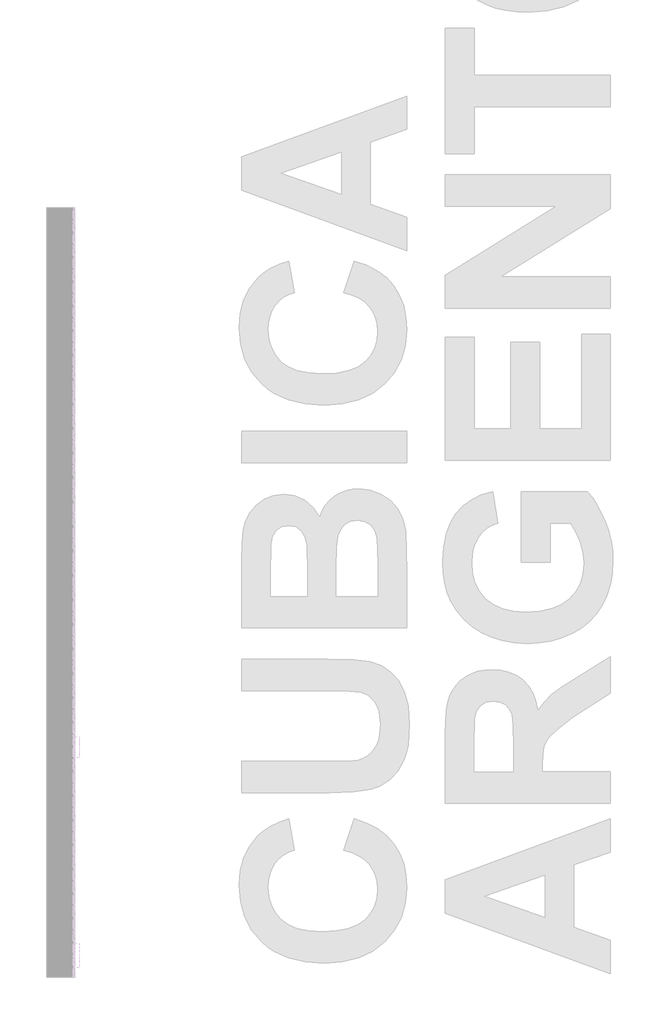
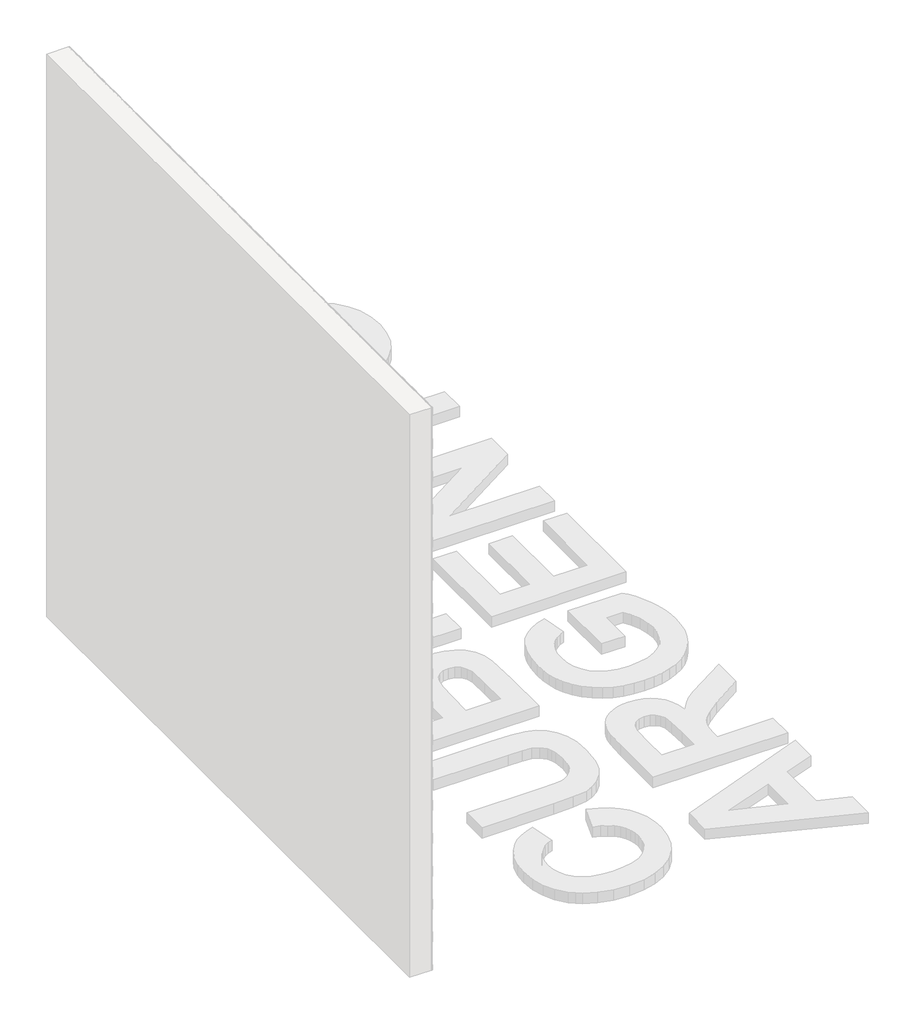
# One storey, part 10 of 121: 145 proxies.
"""IFC4 building model written with IfcOpenShell, lengths in millimetres."""

from ifc_helpers import new_model, si_unit, origin, place, context, project, spatial, transform, mapped, element, save
from components import generic_models_b2b2c5c1, generic_models_9bf73f6f, generic_models_5d175859

model = new_model("IFC4")

# Units and contexts
model_context = context("Model", 3, world=origin())
ifc_project = project(units=[si_unit("LENGTHUNIT", "METRE", prefix="MILLI")], contexts=[model_context])

# Site, building, storey
site = spatial("IfcSite", under=ifc_project)
building = spatial("IfcBuilding", under=site)
storey = spatial("IfcBuildingStorey", under=building, Name="PORTOBELLO - SHOWROOM", Elevation=0.0)

# Proxies
placement = place(None, origin())
generic_models_shape = generic_models_b2b2c5c1(model_context)
element("IfcBuildingElementProxy", 1, Name="PBSHOP - CUBICA ARGENTO 4,8X8,3 : CUBICA ARGENTO - POSIÇÃO 01", ObjectType="PBSHOP - CUBICA ARGENTO 4,8X8,3 : CUBICA ARGENTO - POSIÇÃO 01", at=placement, inside=storey, context=model_context, shape_type="MappedRepresentation", body=[
    mapped(generic_models_shape, transform((150369.5341846, -5994.6755428, 1854.9188494), x_axis=(0.0, 1.0, 0.0), y_axis=(0.0, 0.0, 1.0), z_axis=(1.0, 0.0, 0.0))),
])
element("IfcBuildingElementProxy", 2, Name="PBSHOP - CUBICA ARGENTO 4,8X8,3 : CUBICA ARGENTO - POSIÇÃO 01", ObjectType="PBSHOP - CUBICA ARGENTO 4,8X8,3 : CUBICA ARGENTO - POSIÇÃO 01", at=placement, inside=storey, context=model_context, shape_type="MappedRepresentation", body=[
    mapped(generic_models_shape, transform((150369.5341846, -5903.8362736, 1854.9188494), x_axis=(0.0, 1.0, 0.0), y_axis=(0.0, 0.0, 1.0), z_axis=(1.0, 0.0, 0.0))),
])
element("IfcBuildingElementProxy", 3, Name="PBSHOP - CUBICA ARGENTO 4,8X8,3 : CUBICA ARGENTO - POSIÇÃO 01", ObjectType="PBSHOP - CUBICA ARGENTO 4,8X8,3 : CUBICA ARGENTO - POSIÇÃO 01", at=placement, inside=storey, context=model_context, shape_type="MappedRepresentation", body=[
    mapped(generic_models_shape, transform((150369.5341846, -5812.9970043, 1854.9188494), x_axis=(0.0, 1.0, 0.0), y_axis=(0.0, 0.0, 1.0), z_axis=(1.0, 0.0, 0.0))),
])
element("IfcBuildingElementProxy", 4, Name="PBSHOP - CUBICA ARGENTO 4,8X8,3 : CUBICA ARGENTO - POSIÇÃO 01", ObjectType="PBSHOP - CUBICA ARGENTO 4,8X8,3 : CUBICA ARGENTO - POSIÇÃO 01", at=placement, inside=storey, context=model_context, shape_type="MappedRepresentation", body=[
    mapped(generic_models_shape, transform((150369.5341846, -5722.1577351, 1854.9188494), x_axis=(0.0, 1.0, 0.0), y_axis=(0.0, 0.0, 1.0), z_axis=(1.0, 0.0, 0.0))),
])
element("IfcBuildingElementProxy", 5, Name="PBSHOP - CUBICA ARGENTO 4,8X8,3 : CUBICA ARGENTO - POSIÇÃO 01", ObjectType="PBSHOP - CUBICA ARGENTO 4,8X8,3 : CUBICA ARGENTO - POSIÇÃO 01", at=placement, inside=storey, context=model_context, shape_type="MappedRepresentation", body=[
    mapped(generic_models_shape, transform((150369.5341846, -5631.3184659, 1854.9188494), x_axis=(0.0, 1.0, 0.0), y_axis=(0.0, 0.0, 1.0), z_axis=(1.0, 0.0, 0.0))),
])
element("IfcBuildingElementProxy", 6, Name="PBSHOP - CUBICA ARGENTO 4,8X8,3 : CUBICA ARGENTO - POSIÇÃO 01", ObjectType="PBSHOP - CUBICA ARGENTO 4,8X8,3 : CUBICA ARGENTO - POSIÇÃO 01", at=placement, inside=storey, context=model_context, shape_type="MappedRepresentation", body=[
    mapped(generic_models_shape, transform((150369.5341846, -5540.4791966, 1854.9188494), x_axis=(0.0, 1.0, 0.0), y_axis=(0.0, 0.0, 1.0), z_axis=(1.0, 0.0, 0.0))),
])
element("IfcBuildingElementProxy", 7, Name="PBSHOP - CUBICA ARGENTO 4,8X8,3 : CUBICA ARGENTO - POSIÇÃO 01", ObjectType="PBSHOP - CUBICA ARGENTO 4,8X8,3 : CUBICA ARGENTO - POSIÇÃO 01", at=placement, inside=storey, context=model_context, shape_type="MappedRepresentation", body=[
    mapped(generic_models_shape, transform((150369.5341846, -5449.6399274, 1854.9188494), x_axis=(0.0, 1.0, 0.0), y_axis=(0.0, 0.0, 1.0), z_axis=(1.0, 0.0, 0.0))),
])
element("IfcBuildingElementProxy", 8, Name="PBSHOP - CUBICA ARGENTO 4,8X8,3 : CUBICA ARGENTO - POSIÇÃO 01", ObjectType="PBSHOP - CUBICA ARGENTO 4,8X8,3 : CUBICA ARGENTO - POSIÇÃO 01", at=placement, inside=storey, context=model_context, shape_type="MappedRepresentation", body=[
    mapped(generic_models_shape, transform((150369.5341846, -5358.8006581, 1854.9188494), x_axis=(0.0, 1.0, 0.0), y_axis=(0.0, 0.0, 1.0), z_axis=(1.0, 0.0, 0.0))),
])
element("IfcBuildingElementProxy", 9, Name="PBSHOP - CUBICA ARGENTO 4,8X8,3 : CUBICA ARGENTO - POSIÇÃO 01", ObjectType="PBSHOP - CUBICA ARGENTO 4,8X8,3 : CUBICA ARGENTO - POSIÇÃO 01", at=placement, inside=storey, context=model_context, shape_type="MappedRepresentation", body=[
    mapped(generic_models_shape, transform((150369.5341846, -5267.9613889, 1854.9188494), x_axis=(0.0, 1.0, 0.0), y_axis=(0.0, 0.0, 1.0), z_axis=(1.0, 0.0, 0.0))),
])
element("IfcBuildingElementProxy", 10, Name="PBSHOP - CUBICA ARGENTO 4,8X8,3 : CUBICA ARGENTO - POSIÇÃO 01", ObjectType="PBSHOP - CUBICA ARGENTO 4,8X8,3 : CUBICA ARGENTO - POSIÇÃO 01", at=placement, inside=storey, context=model_context, shape_type="MappedRepresentation", body=[
    mapped(generic_models_shape, transform((150369.5341846, -5177.1221196, 1854.9188494), x_axis=(0.0, 1.0, 0.0), y_axis=(0.0, 0.0, 1.0), z_axis=(1.0, 0.0, 0.0))),
])
element("IfcBuildingElementProxy", 11, Name="PBSHOP - CUBICA ARGENTO 4,8X8,3 : CUBICA ARGENTO - POSIÇÃO 01", ObjectType="PBSHOP - CUBICA ARGENTO 4,8X8,3 : CUBICA ARGENTO - POSIÇÃO 01", at=placement, inside=storey, context=model_context, shape_type="MappedRepresentation", body=[
    mapped(generic_models_shape, transform((150369.5341846, -5086.2828504, 1854.9188494), x_axis=(0.0, 1.0, 0.0), y_axis=(0.0, 0.0, 1.0), z_axis=(1.0, 0.0, 0.0))),
])
element("IfcBuildingElementProxy", 12, Name="PBSHOP - CUBICA ARGENTO 4,8X8,3 : CUBICA ARGENTO - POSIÇÃO 01", ObjectType="PBSHOP - CUBICA ARGENTO 4,8X8,3 : CUBICA ARGENTO - POSIÇÃO 01", at=placement, inside=storey, context=model_context, shape_type="MappedRepresentation", body=[
    mapped(generic_models_shape, transform((150369.5341846, -5949.2559082, 1933.8534878), x_axis=(0.0, 1.0, 0.0), y_axis=(0.0, 0.0, 1.0), z_axis=(1.0, 0.0, 0.0))),
])
element("IfcBuildingElementProxy", 13, Name="PBSHOP - CUBICA ARGENTO 4,8X8,3 : CUBICA ARGENTO - POSIÇÃO 01", ObjectType="PBSHOP - CUBICA ARGENTO 4,8X8,3 : CUBICA ARGENTO - POSIÇÃO 01", at=placement, inside=storey, context=model_context, shape_type="MappedRepresentation", body=[
    mapped(generic_models_shape, transform((150369.5341846, -5858.416639, 1933.8534878), x_axis=(0.0, 1.0, 0.0), y_axis=(0.0, 0.0, 1.0), z_axis=(1.0, 0.0, 0.0))),
])
element("IfcBuildingElementProxy", 14, Name="PBSHOP - CUBICA ARGENTO 4,8X8,3 : CUBICA ARGENTO - POSIÇÃO 01", ObjectType="PBSHOP - CUBICA ARGENTO 4,8X8,3 : CUBICA ARGENTO - POSIÇÃO 01", at=placement, inside=storey, context=model_context, shape_type="MappedRepresentation", body=[
    mapped(generic_models_shape, transform((150369.5341846, -5767.5773697, 1933.8534878), x_axis=(0.0, 1.0, 0.0), y_axis=(0.0, 0.0, 1.0), z_axis=(1.0, 0.0, 0.0))),
])
element("IfcBuildingElementProxy", 15, Name="PBSHOP - CUBICA ARGENTO 4,8X8,3 : CUBICA ARGENTO - POSIÇÃO 01", ObjectType="PBSHOP - CUBICA ARGENTO 4,8X8,3 : CUBICA ARGENTO - POSIÇÃO 01", at=placement, inside=storey, context=model_context, shape_type="MappedRepresentation", body=[
    mapped(generic_models_shape, transform((150369.5341846, -5676.7381005, 1933.8534878), x_axis=(0.0, 1.0, 0.0), y_axis=(0.0, 0.0, 1.0), z_axis=(1.0, 0.0, 0.0))),
])
element("IfcBuildingElementProxy", 16, Name="PBSHOP - CUBICA ARGENTO 4,8X8,3 : CUBICA ARGENTO - POSIÇÃO 01", ObjectType="PBSHOP - CUBICA ARGENTO 4,8X8,3 : CUBICA ARGENTO - POSIÇÃO 01", at=placement, inside=storey, context=model_context, shape_type="MappedRepresentation", body=[
    mapped(generic_models_shape, transform((150369.5341846, -5585.8988312, 1933.8534878), x_axis=(0.0, 1.0, 0.0), y_axis=(0.0, 0.0, 1.0), z_axis=(1.0, 0.0, 0.0))),
])
element("IfcBuildingElementProxy", 17, Name="PBSHOP - CUBICA ARGENTO 4,8X8,3 : CUBICA ARGENTO - POSIÇÃO 01", ObjectType="PBSHOP - CUBICA ARGENTO 4,8X8,3 : CUBICA ARGENTO - POSIÇÃO 01", at=placement, inside=storey, context=model_context, shape_type="MappedRepresentation", body=[
    mapped(generic_models_shape, transform((150369.5341846, -5495.059562, 1933.8534878), x_axis=(0.0, 1.0, 0.0), y_axis=(0.0, 0.0, 1.0), z_axis=(1.0, 0.0, 0.0))),
])
element("IfcBuildingElementProxy", 18, Name="PBSHOP - CUBICA ARGENTO 4,8X8,3 : CUBICA ARGENTO - POSIÇÃO 01", ObjectType="PBSHOP - CUBICA ARGENTO 4,8X8,3 : CUBICA ARGENTO - POSIÇÃO 01", at=placement, inside=storey, context=model_context, shape_type="MappedRepresentation", body=[
    mapped(generic_models_shape, transform((150369.5341846, -5404.2202927, 1933.8534878), x_axis=(0.0, 1.0, 0.0), y_axis=(0.0, 0.0, 1.0), z_axis=(1.0, 0.0, 0.0))),
])
element("IfcBuildingElementProxy", 19, Name="PBSHOP - CUBICA ARGENTO 4,8X8,3 : CUBICA ARGENTO - POSIÇÃO 01", ObjectType="PBSHOP - CUBICA ARGENTO 4,8X8,3 : CUBICA ARGENTO - POSIÇÃO 01", at=placement, inside=storey, context=model_context, shape_type="MappedRepresentation", body=[
    mapped(generic_models_shape, transform((150369.5341846, -5313.3810235, 1933.8534878), x_axis=(0.0, 1.0, 0.0), y_axis=(0.0, 0.0, 1.0), z_axis=(1.0, 0.0, 0.0))),
])
element("IfcBuildingElementProxy", 20, Name="PBSHOP - CUBICA ARGENTO 4,8X8,3 : CUBICA ARGENTO - POSIÇÃO 01", ObjectType="PBSHOP - CUBICA ARGENTO 4,8X8,3 : CUBICA ARGENTO - POSIÇÃO 01", at=placement, inside=storey, context=model_context, shape_type="MappedRepresentation", body=[
    mapped(generic_models_shape, transform((150369.5341846, -5222.5417543, 1933.8534878), x_axis=(0.0, 1.0, 0.0), y_axis=(0.0, 0.0, 1.0), z_axis=(1.0, 0.0, 0.0))),
])
element("IfcBuildingElementProxy", 21, Name="PBSHOP - CUBICA ARGENTO 4,8X8,3 : CUBICA ARGENTO - POSIÇÃO 01", ObjectType="PBSHOP - CUBICA ARGENTO 4,8X8,3 : CUBICA ARGENTO - POSIÇÃO 01", at=placement, inside=storey, context=model_context, shape_type="MappedRepresentation", body=[
    mapped(generic_models_shape, transform((150369.5341846, -5131.702485, 1933.8534878), x_axis=(0.0, 1.0, 0.0), y_axis=(0.0, 0.0, 1.0), z_axis=(1.0, 0.0, 0.0))),
])
element("IfcBuildingElementProxy", 22, Name="PBSHOP - CUBICA ARGENTO 4,8X8,3 : CUBICA ARGENTO - POSIÇÃO 01", ObjectType="PBSHOP - CUBICA ARGENTO 4,8X8,3 : CUBICA ARGENTO - POSIÇÃO 01", at=placement, inside=storey, context=model_context, shape_type="MappedRepresentation", body=[
    mapped(generic_models_shape, transform((150369.5341846, -5040.8632158, 1933.8534878), x_axis=(0.0, 1.0, 0.0), y_axis=(0.0, 0.0, 1.0), z_axis=(1.0, 0.0, 0.0))),
])
element("IfcBuildingElementProxy", 23, Name="PBSHOP - CUBICA ARGENTO 4,8X8,3 : CUBICA ARGENTO - POSIÇÃO 01", ObjectType="PBSHOP - CUBICA ARGENTO 4,8X8,3 : CUBICA ARGENTO - POSIÇÃO 01", at=placement, inside=storey, context=model_context, shape_type="MappedRepresentation", body=[
    mapped(generic_models_shape, transform((150369.5341846, -5994.6755428, 2012.7881262), x_axis=(0.0, 1.0, 0.0), y_axis=(0.0, 0.0, 1.0), z_axis=(1.0, 0.0, 0.0))),
])
element("IfcBuildingElementProxy", 24, Name="PBSHOP - CUBICA ARGENTO 4,8X8,3 : CUBICA ARGENTO - POSIÇÃO 01", ObjectType="PBSHOP - CUBICA ARGENTO 4,8X8,3 : CUBICA ARGENTO - POSIÇÃO 01", at=placement, inside=storey, context=model_context, shape_type="MappedRepresentation", body=[
    mapped(generic_models_shape, transform((150369.5341846, -5903.8362736, 2012.7881262), x_axis=(0.0, 1.0, 0.0), y_axis=(0.0, 0.0, 1.0), z_axis=(1.0, 0.0, 0.0))),
])
element("IfcBuildingElementProxy", 25, Name="PBSHOP - CUBICA ARGENTO 4,8X8,3 : CUBICA ARGENTO - POSIÇÃO 01", ObjectType="PBSHOP - CUBICA ARGENTO 4,8X8,3 : CUBICA ARGENTO - POSIÇÃO 01", at=placement, inside=storey, context=model_context, shape_type="MappedRepresentation", body=[
    mapped(generic_models_shape, transform((150369.5341846, -5812.9970043, 2012.7881262), x_axis=(0.0, 1.0, 0.0), y_axis=(0.0, 0.0, 1.0), z_axis=(1.0, 0.0, 0.0))),
])
element("IfcBuildingElementProxy", 26, Name="PBSHOP - CUBICA ARGENTO 4,8X8,3 : CUBICA ARGENTO - POSIÇÃO 01", ObjectType="PBSHOP - CUBICA ARGENTO 4,8X8,3 : CUBICA ARGENTO - POSIÇÃO 01", at=placement, inside=storey, context=model_context, shape_type="MappedRepresentation", body=[
    mapped(generic_models_shape, transform((150369.5341846, -5722.1577351, 2012.7881262), x_axis=(0.0, 1.0, 0.0), y_axis=(0.0, 0.0, 1.0), z_axis=(1.0, 0.0, 0.0))),
])
element("IfcBuildingElementProxy", 27, Name="PBSHOP - CUBICA ARGENTO 4,8X8,3 : CUBICA ARGENTO - POSIÇÃO 01", ObjectType="PBSHOP - CUBICA ARGENTO 4,8X8,3 : CUBICA ARGENTO - POSIÇÃO 01", at=placement, inside=storey, context=model_context, shape_type="MappedRepresentation", body=[
    mapped(generic_models_shape, transform((150369.5341846, -5631.3184659, 2012.7881262), x_axis=(0.0, 1.0, 0.0), y_axis=(0.0, 0.0, 1.0), z_axis=(1.0, 0.0, 0.0))),
])
element("IfcBuildingElementProxy", 28, Name="PBSHOP - CUBICA ARGENTO 4,8X8,3 : CUBICA ARGENTO - POSIÇÃO 01", ObjectType="PBSHOP - CUBICA ARGENTO 4,8X8,3 : CUBICA ARGENTO - POSIÇÃO 01", at=placement, inside=storey, context=model_context, shape_type="MappedRepresentation", body=[
    mapped(generic_models_shape, transform((150369.5341846, -5540.4791966, 2012.7881262), x_axis=(0.0, 1.0, 0.0), y_axis=(0.0, 0.0, 1.0), z_axis=(1.0, 0.0, 0.0))),
])
element("IfcBuildingElementProxy", 29, Name="PBSHOP - CUBICA ARGENTO 4,8X8,3 : CUBICA ARGENTO - POSIÇÃO 01", ObjectType="PBSHOP - CUBICA ARGENTO 4,8X8,3 : CUBICA ARGENTO - POSIÇÃO 01", at=placement, inside=storey, context=model_context, shape_type="MappedRepresentation", body=[
    mapped(generic_models_shape, transform((150369.5341846, -5449.6399274, 2012.7881262), x_axis=(0.0, 1.0, 0.0), y_axis=(0.0, 0.0, 1.0), z_axis=(1.0, 0.0, 0.0))),
])
element("IfcBuildingElementProxy", 30, Name="PBSHOP - CUBICA ARGENTO 4,8X8,3 : CUBICA ARGENTO - POSIÇÃO 01", ObjectType="PBSHOP - CUBICA ARGENTO 4,8X8,3 : CUBICA ARGENTO - POSIÇÃO 01", at=placement, inside=storey, context=model_context, shape_type="MappedRepresentation", body=[
    mapped(generic_models_shape, transform((150369.5341846, -5358.8006581, 2012.7881262), x_axis=(0.0, 1.0, 0.0), y_axis=(0.0, 0.0, 1.0), z_axis=(1.0, 0.0, 0.0))),
])
element("IfcBuildingElementProxy", 31, Name="PBSHOP - CUBICA ARGENTO 4,8X8,3 : CUBICA ARGENTO - POSIÇÃO 01", ObjectType="PBSHOP - CUBICA ARGENTO 4,8X8,3 : CUBICA ARGENTO - POSIÇÃO 01", at=placement, inside=storey, context=model_context, shape_type="MappedRepresentation", body=[
    mapped(generic_models_shape, transform((150369.5341846, -5267.9613889, 2012.7881262), x_axis=(0.0, 1.0, 0.0), y_axis=(0.0, 0.0, 1.0), z_axis=(1.0, 0.0, 0.0))),
])
element("IfcBuildingElementProxy", 32, Name="PBSHOP - CUBICA ARGENTO 4,8X8,3 : CUBICA ARGENTO - POSIÇÃO 01", ObjectType="PBSHOP - CUBICA ARGENTO 4,8X8,3 : CUBICA ARGENTO - POSIÇÃO 01", at=placement, inside=storey, context=model_context, shape_type="MappedRepresentation", body=[
    mapped(generic_models_shape, transform((150369.5341846, -5177.1221196, 2012.7881262), x_axis=(0.0, 1.0, 0.0), y_axis=(0.0, 0.0, 1.0), z_axis=(1.0, 0.0, 0.0))),
])
element("IfcBuildingElementProxy", 33, Name="PBSHOP - CUBICA ARGENTO 4,8X8,3 : CUBICA ARGENTO - POSIÇÃO 01", ObjectType="PBSHOP - CUBICA ARGENTO 4,8X8,3 : CUBICA ARGENTO - POSIÇÃO 01", at=placement, inside=storey, context=model_context, shape_type="MappedRepresentation", body=[
    mapped(generic_models_shape, transform((150369.5341846, -5086.2828504, 2012.7881262), x_axis=(0.0, 1.0, 0.0), y_axis=(0.0, 0.0, 1.0), z_axis=(1.0, 0.0, 0.0))),
])
element("IfcBuildingElementProxy", 34, Name="PBSHOP - CUBICA ARGENTO 4,8X8,3 : CUBICA ARGENTO - POSIÇÃO 01", ObjectType="PBSHOP - CUBICA ARGENTO 4,8X8,3 : CUBICA ARGENTO - POSIÇÃO 01", at=placement, inside=storey, context=model_context, shape_type="MappedRepresentation", body=[
    mapped(generic_models_shape, transform((150369.5341846, -5949.2559082, 2091.7227645), x_axis=(0.0, 1.0, 0.0), y_axis=(0.0, 0.0, 1.0), z_axis=(1.0, 0.0, 0.0))),
])
element("IfcBuildingElementProxy", 35, Name="PBSHOP - CUBICA ARGENTO 4,8X8,3 : CUBICA ARGENTO - POSIÇÃO 01", ObjectType="PBSHOP - CUBICA ARGENTO 4,8X8,3 : CUBICA ARGENTO - POSIÇÃO 01", at=placement, inside=storey, context=model_context, shape_type="MappedRepresentation", body=[
    mapped(generic_models_shape, transform((150369.5341846, -5858.416639, 2091.7227645), x_axis=(0.0, 1.0, 0.0), y_axis=(0.0, 0.0, 1.0), z_axis=(1.0, 0.0, 0.0))),
])
element("IfcBuildingElementProxy", 36, Name="PBSHOP - CUBICA ARGENTO 4,8X8,3 : CUBICA ARGENTO - POSIÇÃO 01", ObjectType="PBSHOP - CUBICA ARGENTO 4,8X8,3 : CUBICA ARGENTO - POSIÇÃO 01", at=placement, inside=storey, context=model_context, shape_type="MappedRepresentation", body=[
    mapped(generic_models_shape, transform((150369.5341846, -5767.5773697, 2091.7227645), x_axis=(0.0, 1.0, 0.0), y_axis=(0.0, 0.0, 1.0), z_axis=(1.0, 0.0, 0.0))),
])
element("IfcBuildingElementProxy", 37, Name="PBSHOP - CUBICA ARGENTO 4,8X8,3 : CUBICA ARGENTO - POSIÇÃO 01", ObjectType="PBSHOP - CUBICA ARGENTO 4,8X8,3 : CUBICA ARGENTO - POSIÇÃO 01", at=placement, inside=storey, context=model_context, shape_type="MappedRepresentation", body=[
    mapped(generic_models_shape, transform((150369.5341846, -5676.7381005, 2091.7227645), x_axis=(0.0, 1.0, 0.0), y_axis=(0.0, 0.0, 1.0), z_axis=(1.0, 0.0, 0.0))),
])
element("IfcBuildingElementProxy", 38, Name="PBSHOP - CUBICA ARGENTO 4,8X8,3 : CUBICA ARGENTO - POSIÇÃO 01", ObjectType="PBSHOP - CUBICA ARGENTO 4,8X8,3 : CUBICA ARGENTO - POSIÇÃO 01", at=placement, inside=storey, context=model_context, shape_type="MappedRepresentation", body=[
    mapped(generic_models_shape, transform((150369.5341846, -5585.8988312, 2091.7227645), x_axis=(0.0, 1.0, 0.0), y_axis=(0.0, 0.0, 1.0), z_axis=(1.0, 0.0, 0.0))),
])
element("IfcBuildingElementProxy", 39, Name="PBSHOP - CUBICA ARGENTO 4,8X8,3 : CUBICA ARGENTO - POSIÇÃO 01", ObjectType="PBSHOP - CUBICA ARGENTO 4,8X8,3 : CUBICA ARGENTO - POSIÇÃO 01", at=placement, inside=storey, context=model_context, shape_type="MappedRepresentation", body=[
    mapped(generic_models_shape, transform((150369.5341846, -5495.059562, 2091.7227645), x_axis=(0.0, 1.0, 0.0), y_axis=(0.0, 0.0, 1.0), z_axis=(1.0, 0.0, 0.0))),
])
element("IfcBuildingElementProxy", 40, Name="PBSHOP - CUBICA ARGENTO 4,8X8,3 : CUBICA ARGENTO - POSIÇÃO 01", ObjectType="PBSHOP - CUBICA ARGENTO 4,8X8,3 : CUBICA ARGENTO - POSIÇÃO 01", at=placement, inside=storey, context=model_context, shape_type="MappedRepresentation", body=[
    mapped(generic_models_shape, transform((150369.5341846, -5404.2202927, 2091.7227645), x_axis=(0.0, 1.0, 0.0), y_axis=(0.0, 0.0, 1.0), z_axis=(1.0, 0.0, 0.0))),
])
element("IfcBuildingElementProxy", 41, Name="PBSHOP - CUBICA ARGENTO 4,8X8,3 : CUBICA ARGENTO - POSIÇÃO 01", ObjectType="PBSHOP - CUBICA ARGENTO 4,8X8,3 : CUBICA ARGENTO - POSIÇÃO 01", at=placement, inside=storey, context=model_context, shape_type="MappedRepresentation", body=[
    mapped(generic_models_shape, transform((150369.5341846, -5313.3810235, 2091.7227645), x_axis=(0.0, 1.0, 0.0), y_axis=(0.0, 0.0, 1.0), z_axis=(1.0, 0.0, 0.0))),
])
element("IfcBuildingElementProxy", 42, Name="PBSHOP - CUBICA ARGENTO 4,8X8,3 : CUBICA ARGENTO - POSIÇÃO 01", ObjectType="PBSHOP - CUBICA ARGENTO 4,8X8,3 : CUBICA ARGENTO - POSIÇÃO 01", at=placement, inside=storey, context=model_context, shape_type="MappedRepresentation", body=[
    mapped(generic_models_shape, transform((150369.5341846, -5222.5417543, 2091.7227645), x_axis=(0.0, 1.0, 0.0), y_axis=(0.0, 0.0, 1.0), z_axis=(1.0, 0.0, 0.0))),
])
element("IfcBuildingElementProxy", 43, Name="PBSHOP - CUBICA ARGENTO 4,8X8,3 : CUBICA ARGENTO - POSIÇÃO 01", ObjectType="PBSHOP - CUBICA ARGENTO 4,8X8,3 : CUBICA ARGENTO - POSIÇÃO 01", at=placement, inside=storey, context=model_context, shape_type="MappedRepresentation", body=[
    mapped(generic_models_shape, transform((150369.5341846, -5131.702485, 2091.7227645), x_axis=(0.0, 1.0, 0.0), y_axis=(0.0, 0.0, 1.0), z_axis=(1.0, 0.0, 0.0))),
])
element("IfcBuildingElementProxy", 44, Name="PBSHOP - CUBICA ARGENTO 4,8X8,3 : CUBICA ARGENTO - POSIÇÃO 01", ObjectType="PBSHOP - CUBICA ARGENTO 4,8X8,3 : CUBICA ARGENTO - POSIÇÃO 01", at=placement, inside=storey, context=model_context, shape_type="MappedRepresentation", body=[
    mapped(generic_models_shape, transform((150369.5341846, -5040.8632158, 2091.7227645), x_axis=(0.0, 1.0, 0.0), y_axis=(0.0, 0.0, 1.0), z_axis=(1.0, 0.0, 0.0))),
])
element("IfcBuildingElementProxy", 45, Name="PBSHOP - CUBICA ARGENTO 4,8X8,3 : CUBICA ARGENTO - POSIÇÃO 01", ObjectType="PBSHOP - CUBICA ARGENTO 4,8X8,3 : CUBICA ARGENTO - POSIÇÃO 01", at=placement, inside=storey, context=model_context, shape_type="MappedRepresentation", body=[
    mapped(generic_models_shape, transform((150369.5341846, -5994.6755428, 2170.6574029), x_axis=(0.0, 1.0, 0.0), y_axis=(0.0, 0.0, 1.0), z_axis=(1.0, 0.0, 0.0))),
])
element("IfcBuildingElementProxy", 46, Name="PBSHOP - CUBICA ARGENTO 4,8X8,3 : CUBICA ARGENTO - POSIÇÃO 01", ObjectType="PBSHOP - CUBICA ARGENTO 4,8X8,3 : CUBICA ARGENTO - POSIÇÃO 01", at=placement, inside=storey, context=model_context, shape_type="MappedRepresentation", body=[
    mapped(generic_models_shape, transform((150369.5341846, -5903.8362736, 2170.6574029), x_axis=(0.0, 1.0, 0.0), y_axis=(0.0, 0.0, 1.0), z_axis=(1.0, 0.0, 0.0))),
])
element("IfcBuildingElementProxy", 47, Name="PBSHOP - CUBICA ARGENTO 4,8X8,3 : CUBICA ARGENTO - POSIÇÃO 01", ObjectType="PBSHOP - CUBICA ARGENTO 4,8X8,3 : CUBICA ARGENTO - POSIÇÃO 01", at=placement, inside=storey, context=model_context, shape_type="MappedRepresentation", body=[
    mapped(generic_models_shape, transform((150369.5341846, -5812.9970043, 2170.6574029), x_axis=(0.0, 1.0, 0.0), y_axis=(0.0, 0.0, 1.0), z_axis=(1.0, 0.0, 0.0))),
])
element("IfcBuildingElementProxy", 48, Name="PBSHOP - CUBICA ARGENTO 4,8X8,3 : CUBICA ARGENTO - POSIÇÃO 01", ObjectType="PBSHOP - CUBICA ARGENTO 4,8X8,3 : CUBICA ARGENTO - POSIÇÃO 01", at=placement, inside=storey, context=model_context, shape_type="MappedRepresentation", body=[
    mapped(generic_models_shape, transform((150369.5341846, -5722.1577351, 2170.6574029), x_axis=(0.0, 1.0, 0.0), y_axis=(0.0, 0.0, 1.0), z_axis=(1.0, 0.0, 0.0))),
])
generic_models_2_shape = generic_models_9bf73f6f(model_context)
element("IfcBuildingElementProxy", 49, Name="PBSHOP - CUBICA ARGENTO 4,8X8,3 : CUBICA ARGENTO - POSIÇÃO 03", ObjectType="PBSHOP - CUBICA ARGENTO 4,8X8,3 : CUBICA ARGENTO - POSIÇÃO 03", at=placement, inside=storey, context=model_context, shape_type="MappedRepresentation", body=[
    mapped(generic_models_2_shape, transform((150369.5341846, -5426.9279509, 1736.4756814), x_axis=(0.0, 1.0, 0.0), y_axis=(0.0, 0.0, 1.0), z_axis=(1.0, 0.0, 0.0))),
])
element("IfcBuildingElementProxy", 50, Name="PBSHOP - CUBICA ARGENTO 4,8X8,3 : CUBICA ARGENTO - POSIÇÃO 03", ObjectType="PBSHOP - CUBICA ARGENTO 4,8X8,3 : CUBICA ARGENTO - POSIÇÃO 03", at=placement, inside=storey, context=model_context, shape_type="MappedRepresentation", body=[
    mapped(generic_models_2_shape, transform((150369.5341846, -5336.0886816, 1736.4756814), x_axis=(0.0, 1.0, 0.0), y_axis=(0.0, 0.0, 1.0), z_axis=(1.0, 0.0, 0.0))),
])
element("IfcBuildingElementProxy", 51, Name="PBSHOP - CUBICA ARGENTO 4,8X8,3 : CUBICA ARGENTO - POSIÇÃO 03", ObjectType="PBSHOP - CUBICA ARGENTO 4,8X8,3 : CUBICA ARGENTO - POSIÇÃO 03", at=placement, inside=storey, context=model_context, shape_type="MappedRepresentation", body=[
    mapped(generic_models_2_shape, transform((150369.5341846, -5245.2494124, 1736.4756814), x_axis=(0.0, 1.0, 0.0), y_axis=(0.0, 0.0, 1.0), z_axis=(1.0, 0.0, 0.0))),
])
element("IfcBuildingElementProxy", 52, Name="PBSHOP - CUBICA ARGENTO 4,8X8,3 : CUBICA ARGENTO - POSIÇÃO 03", ObjectType="PBSHOP - CUBICA ARGENTO 4,8X8,3 : CUBICA ARGENTO - POSIÇÃO 03", at=placement, inside=storey, context=model_context, shape_type="MappedRepresentation", body=[
    mapped(generic_models_2_shape, transform((150369.5341846, -5154.4101432, 1736.4756814), x_axis=(0.0, 1.0, 0.0), y_axis=(0.0, 0.0, 1.0), z_axis=(1.0, 0.0, 0.0))),
])
element("IfcBuildingElementProxy", 53, Name="PBSHOP - CUBICA ARGENTO 4,8X8,3 : CUBICA ARGENTO - POSIÇÃO 03", ObjectType="PBSHOP - CUBICA ARGENTO 4,8X8,3 : CUBICA ARGENTO - POSIÇÃO 03", at=placement, inside=storey, context=model_context, shape_type="MappedRepresentation", body=[
    mapped(generic_models_2_shape, transform((150369.5341846, -5063.5708739, 1736.4756814), x_axis=(0.0, 1.0, 0.0), y_axis=(0.0, 0.0, 1.0), z_axis=(1.0, 0.0, 0.0))),
])
element("IfcBuildingElementProxy", 54, Name="PBSHOP - CUBICA ARGENTO 4,8X8,3 : CUBICA ARGENTO - POSIÇÃO 03", ObjectType="PBSHOP - CUBICA ARGENTO 4,8X8,3 : CUBICA ARGENTO - POSIÇÃO 03", at=placement, inside=storey, context=model_context, shape_type="MappedRepresentation", body=[
    mapped(generic_models_2_shape, transform((150369.5341846, -5926.5439317, 1815.4103198), x_axis=(0.0, 1.0, 0.0), y_axis=(0.0, 0.0, 1.0), z_axis=(1.0, 0.0, 0.0))),
])
element("IfcBuildingElementProxy", 55, Name="PBSHOP - CUBICA ARGENTO 4,8X8,3 : CUBICA ARGENTO - POSIÇÃO 03", ObjectType="PBSHOP - CUBICA ARGENTO 4,8X8,3 : CUBICA ARGENTO - POSIÇÃO 03", at=placement, inside=storey, context=model_context, shape_type="MappedRepresentation", body=[
    mapped(generic_models_2_shape, transform((150369.5341846, -5835.7046625, 1815.4103198), x_axis=(0.0, 1.0, 0.0), y_axis=(0.0, 0.0, 1.0), z_axis=(1.0, 0.0, 0.0))),
])
element("IfcBuildingElementProxy", 56, Name="PBSHOP - CUBICA ARGENTO 4,8X8,3 : CUBICA ARGENTO - POSIÇÃO 03", ObjectType="PBSHOP - CUBICA ARGENTO 4,8X8,3 : CUBICA ARGENTO - POSIÇÃO 03", at=placement, inside=storey, context=model_context, shape_type="MappedRepresentation", body=[
    mapped(generic_models_2_shape, transform((150369.5341846, -5744.8653932, 1815.4103198), x_axis=(0.0, 1.0, 0.0), y_axis=(0.0, 0.0, 1.0), z_axis=(1.0, 0.0, 0.0))),
])
element("IfcBuildingElementProxy", 57, Name="PBSHOP - CUBICA ARGENTO 4,8X8,3 : CUBICA ARGENTO - POSIÇÃO 03", ObjectType="PBSHOP - CUBICA ARGENTO 4,8X8,3 : CUBICA ARGENTO - POSIÇÃO 03", at=placement, inside=storey, context=model_context, shape_type="MappedRepresentation", body=[
    mapped(generic_models_2_shape, transform((150369.5341846, -5654.026124, 1815.4103198), x_axis=(0.0, 1.0, 0.0), y_axis=(0.0, 0.0, 1.0), z_axis=(1.0, 0.0, 0.0))),
])
element("IfcBuildingElementProxy", 58, Name="PBSHOP - CUBICA ARGENTO 4,8X8,3 : CUBICA ARGENTO - POSIÇÃO 03", ObjectType="PBSHOP - CUBICA ARGENTO 4,8X8,3 : CUBICA ARGENTO - POSIÇÃO 03", at=placement, inside=storey, context=model_context, shape_type="MappedRepresentation", body=[
    mapped(generic_models_2_shape, transform((150369.5341846, -5563.1868548, 1815.4103198), x_axis=(0.0, 1.0, 0.0), y_axis=(0.0, 0.0, 1.0), z_axis=(1.0, 0.0, 0.0))),
])
element("IfcBuildingElementProxy", 59, Name="PBSHOP - CUBICA ARGENTO 4,8X8,3 : CUBICA ARGENTO - POSIÇÃO 03", ObjectType="PBSHOP - CUBICA ARGENTO 4,8X8,3 : CUBICA ARGENTO - POSIÇÃO 03", at=placement, inside=storey, context=model_context, shape_type="MappedRepresentation", body=[
    mapped(generic_models_2_shape, transform((150369.5341846, -5472.3475855, 1815.4103198), x_axis=(0.0, 1.0, 0.0), y_axis=(0.0, 0.0, 1.0), z_axis=(1.0, 0.0, 0.0))),
])
element("IfcBuildingElementProxy", 60, Name="PBSHOP - CUBICA ARGENTO 4,8X8,3 : CUBICA ARGENTO - POSIÇÃO 03", ObjectType="PBSHOP - CUBICA ARGENTO 4,8X8,3 : CUBICA ARGENTO - POSIÇÃO 03", at=placement, inside=storey, context=model_context, shape_type="MappedRepresentation", body=[
    mapped(generic_models_2_shape, transform((150369.5341846, -5381.5083163, 1815.4103198), x_axis=(0.0, 1.0, 0.0), y_axis=(0.0, 0.0, 1.0), z_axis=(1.0, 0.0, 0.0))),
])
element("IfcBuildingElementProxy", 61, Name="PBSHOP - CUBICA ARGENTO 4,8X8,3 : CUBICA ARGENTO - POSIÇÃO 03", ObjectType="PBSHOP - CUBICA ARGENTO 4,8X8,3 : CUBICA ARGENTO - POSIÇÃO 03", at=placement, inside=storey, context=model_context, shape_type="MappedRepresentation", body=[
    mapped(generic_models_2_shape, transform((150369.5341846, -5290.669047, 1815.4103198), x_axis=(0.0, 1.0, 0.0), y_axis=(0.0, 0.0, 1.0), z_axis=(1.0, 0.0, 0.0))),
])
element("IfcBuildingElementProxy", 62, Name="PBSHOP - CUBICA ARGENTO 4,8X8,3 : CUBICA ARGENTO - POSIÇÃO 03", ObjectType="PBSHOP - CUBICA ARGENTO 4,8X8,3 : CUBICA ARGENTO - POSIÇÃO 03", at=placement, inside=storey, context=model_context, shape_type="MappedRepresentation", body=[
    mapped(generic_models_2_shape, transform((150369.5341846, -5199.8297778, 1815.4103198), x_axis=(0.0, 1.0, 0.0), y_axis=(0.0, 0.0, 1.0), z_axis=(1.0, 0.0, 0.0))),
])
element("IfcBuildingElementProxy", 63, Name="PBSHOP - CUBICA ARGENTO 4,8X8,3 : CUBICA ARGENTO - POSIÇÃO 03", ObjectType="PBSHOP - CUBICA ARGENTO 4,8X8,3 : CUBICA ARGENTO - POSIÇÃO 03", at=placement, inside=storey, context=model_context, shape_type="MappedRepresentation", body=[
    mapped(generic_models_2_shape, transform((150369.5341846, -5108.9905085, 1815.4103198), x_axis=(0.0, 1.0, 0.0), y_axis=(0.0, 0.0, 1.0), z_axis=(1.0, 0.0, 0.0))),
])
element("IfcBuildingElementProxy", 64, Name="PBSHOP - CUBICA ARGENTO 4,8X8,3 : CUBICA ARGENTO - POSIÇÃO 03", ObjectType="PBSHOP - CUBICA ARGENTO 4,8X8,3 : CUBICA ARGENTO - POSIÇÃO 03", at=placement, inside=storey, context=model_context, shape_type="MappedRepresentation", body=[
    mapped(generic_models_2_shape, transform((150369.5341846, -5018.1512393, 1815.4103198), x_axis=(0.0, 1.0, 0.0), y_axis=(0.0, 0.0, 1.0), z_axis=(1.0, 0.0, 0.0))),
])
element("IfcBuildingElementProxy", 65, Name="PBSHOP - CUBICA ARGENTO 4,8X8,3 : CUBICA ARGENTO - POSIÇÃO 03", ObjectType="PBSHOP - CUBICA ARGENTO 4,8X8,3 : CUBICA ARGENTO - POSIÇÃO 03", at=placement, inside=storey, context=model_context, shape_type="MappedRepresentation", body=[
    mapped(generic_models_2_shape, transform((150369.5341846, -5971.9635664, 1894.3449582), x_axis=(0.0, 1.0, 0.0), y_axis=(0.0, 0.0, 1.0), z_axis=(1.0, 0.0, 0.0))),
])
element("IfcBuildingElementProxy", 66, Name="PBSHOP - CUBICA ARGENTO 4,8X8,3 : CUBICA ARGENTO - POSIÇÃO 03", ObjectType="PBSHOP - CUBICA ARGENTO 4,8X8,3 : CUBICA ARGENTO - POSIÇÃO 03", at=placement, inside=storey, context=model_context, shape_type="MappedRepresentation", body=[
    mapped(generic_models_2_shape, transform((150369.5341846, -5881.1242971, 1894.3449582), x_axis=(0.0, 1.0, 0.0), y_axis=(0.0, 0.0, 1.0), z_axis=(1.0, 0.0, 0.0))),
])
element("IfcBuildingElementProxy", 67, Name="PBSHOP - CUBICA ARGENTO 4,8X8,3 : CUBICA ARGENTO - POSIÇÃO 03", ObjectType="PBSHOP - CUBICA ARGENTO 4,8X8,3 : CUBICA ARGENTO - POSIÇÃO 03", at=placement, inside=storey, context=model_context, shape_type="MappedRepresentation", body=[
    mapped(generic_models_2_shape, transform((150369.5341846, -5790.2850279, 1894.3449582), x_axis=(0.0, 1.0, 0.0), y_axis=(0.0, 0.0, 1.0), z_axis=(1.0, 0.0, 0.0))),
])
element("IfcBuildingElementProxy", 68, Name="PBSHOP - CUBICA ARGENTO 4,8X8,3 : CUBICA ARGENTO - POSIÇÃO 03", ObjectType="PBSHOP - CUBICA ARGENTO 4,8X8,3 : CUBICA ARGENTO - POSIÇÃO 03", at=placement, inside=storey, context=model_context, shape_type="MappedRepresentation", body=[
    mapped(generic_models_2_shape, transform((150369.5341846, -5699.4457586, 1894.3449582), x_axis=(0.0, 1.0, 0.0), y_axis=(0.0, 0.0, 1.0), z_axis=(1.0, 0.0, 0.0))),
])
element("IfcBuildingElementProxy", 69, Name="PBSHOP - CUBICA ARGENTO 4,8X8,3 : CUBICA ARGENTO - POSIÇÃO 03", ObjectType="PBSHOP - CUBICA ARGENTO 4,8X8,3 : CUBICA ARGENTO - POSIÇÃO 03", at=placement, inside=storey, context=model_context, shape_type="MappedRepresentation", body=[
    mapped(generic_models_2_shape, transform((150369.5341846, -5608.6064894, 1894.3449582), x_axis=(0.0, 1.0, 0.0), y_axis=(0.0, 0.0, 1.0), z_axis=(1.0, 0.0, 0.0))),
])
element("IfcBuildingElementProxy", 70, Name="PBSHOP - CUBICA ARGENTO 4,8X8,3 : CUBICA ARGENTO - POSIÇÃO 03", ObjectType="PBSHOP - CUBICA ARGENTO 4,8X8,3 : CUBICA ARGENTO - POSIÇÃO 03", at=placement, inside=storey, context=model_context, shape_type="MappedRepresentation", body=[
    mapped(generic_models_2_shape, transform((150369.5341846, -5517.7672201, 1894.3449582), x_axis=(0.0, 1.0, 0.0), y_axis=(0.0, 0.0, 1.0), z_axis=(1.0, 0.0, 0.0))),
])
element("IfcBuildingElementProxy", 71, Name="PBSHOP - CUBICA ARGENTO 4,8X8,3 : CUBICA ARGENTO - POSIÇÃO 03", ObjectType="PBSHOP - CUBICA ARGENTO 4,8X8,3 : CUBICA ARGENTO - POSIÇÃO 03", at=placement, inside=storey, context=model_context, shape_type="MappedRepresentation", body=[
    mapped(generic_models_2_shape, transform((150369.5341846, -5426.9279509, 1894.3449582), x_axis=(0.0, 1.0, 0.0), y_axis=(0.0, 0.0, 1.0), z_axis=(1.0, 0.0, 0.0))),
])
element("IfcBuildingElementProxy", 72, Name="PBSHOP - CUBICA ARGENTO 4,8X8,3 : CUBICA ARGENTO - POSIÇÃO 03", ObjectType="PBSHOP - CUBICA ARGENTO 4,8X8,3 : CUBICA ARGENTO - POSIÇÃO 03", at=placement, inside=storey, context=model_context, shape_type="MappedRepresentation", body=[
    mapped(generic_models_2_shape, transform((150369.5341846, -5336.0886816, 1894.3449582), x_axis=(0.0, 1.0, 0.0), y_axis=(0.0, 0.0, 1.0), z_axis=(1.0, 0.0, 0.0))),
])
element("IfcBuildingElementProxy", 73, Name="PBSHOP - CUBICA ARGENTO 4,8X8,3 : CUBICA ARGENTO - POSIÇÃO 03", ObjectType="PBSHOP - CUBICA ARGENTO 4,8X8,3 : CUBICA ARGENTO - POSIÇÃO 03", at=placement, inside=storey, context=model_context, shape_type="MappedRepresentation", body=[
    mapped(generic_models_2_shape, transform((150369.5341846, -5245.2494124, 1894.3449582), x_axis=(0.0, 1.0, 0.0), y_axis=(0.0, 0.0, 1.0), z_axis=(1.0, 0.0, 0.0))),
])
element("IfcBuildingElementProxy", 74, Name="PBSHOP - CUBICA ARGENTO 4,8X8,3 : CUBICA ARGENTO - POSIÇÃO 03", ObjectType="PBSHOP - CUBICA ARGENTO 4,8X8,3 : CUBICA ARGENTO - POSIÇÃO 03", at=placement, inside=storey, context=model_context, shape_type="MappedRepresentation", body=[
    mapped(generic_models_2_shape, transform((150369.5341846, -5154.4101432, 1894.3449582), x_axis=(0.0, 1.0, 0.0), y_axis=(0.0, 0.0, 1.0), z_axis=(1.0, 0.0, 0.0))),
])
element("IfcBuildingElementProxy", 75, Name="PBSHOP - CUBICA ARGENTO 4,8X8,3 : CUBICA ARGENTO - POSIÇÃO 03", ObjectType="PBSHOP - CUBICA ARGENTO 4,8X8,3 : CUBICA ARGENTO - POSIÇÃO 03", at=placement, inside=storey, context=model_context, shape_type="MappedRepresentation", body=[
    mapped(generic_models_2_shape, transform((150369.5341846, -5063.5708739, 1894.3449582), x_axis=(0.0, 1.0, 0.0), y_axis=(0.0, 0.0, 1.0), z_axis=(1.0, 0.0, 0.0))),
])
element("IfcBuildingElementProxy", 76, Name="PBSHOP - CUBICA ARGENTO 4,8X8,3 : CUBICA ARGENTO - POSIÇÃO 03", ObjectType="PBSHOP - CUBICA ARGENTO 4,8X8,3 : CUBICA ARGENTO - POSIÇÃO 03", at=placement, inside=storey, context=model_context, shape_type="MappedRepresentation", body=[
    mapped(generic_models_2_shape, transform((150369.5341846, -5926.5439317, 1973.2795966), x_axis=(0.0, 1.0, 0.0), y_axis=(0.0, 0.0, 1.0), z_axis=(1.0, 0.0, 0.0))),
])
element("IfcBuildingElementProxy", 77, Name="PBSHOP - CUBICA ARGENTO 4,8X8,3 : CUBICA ARGENTO - POSIÇÃO 03", ObjectType="PBSHOP - CUBICA ARGENTO 4,8X8,3 : CUBICA ARGENTO - POSIÇÃO 03", at=placement, inside=storey, context=model_context, shape_type="MappedRepresentation", body=[
    mapped(generic_models_2_shape, transform((150369.5341846, -5835.7046625, 1973.2795966), x_axis=(0.0, 1.0, 0.0), y_axis=(0.0, 0.0, 1.0), z_axis=(1.0, 0.0, 0.0))),
])
element("IfcBuildingElementProxy", 78, Name="PBSHOP - CUBICA ARGENTO 4,8X8,3 : CUBICA ARGENTO - POSIÇÃO 03", ObjectType="PBSHOP - CUBICA ARGENTO 4,8X8,3 : CUBICA ARGENTO - POSIÇÃO 03", at=placement, inside=storey, context=model_context, shape_type="MappedRepresentation", body=[
    mapped(generic_models_2_shape, transform((150369.5341846, -5744.8653932, 1973.2795966), x_axis=(0.0, 1.0, 0.0), y_axis=(0.0, 0.0, 1.0), z_axis=(1.0, 0.0, 0.0))),
])
element("IfcBuildingElementProxy", 79, Name="PBSHOP - CUBICA ARGENTO 4,8X8,3 : CUBICA ARGENTO - POSIÇÃO 03", ObjectType="PBSHOP - CUBICA ARGENTO 4,8X8,3 : CUBICA ARGENTO - POSIÇÃO 03", at=placement, inside=storey, context=model_context, shape_type="MappedRepresentation", body=[
    mapped(generic_models_2_shape, transform((150369.5341846, -5654.026124, 1973.2795966), x_axis=(0.0, 1.0, 0.0), y_axis=(0.0, 0.0, 1.0), z_axis=(1.0, 0.0, 0.0))),
])
element("IfcBuildingElementProxy", 80, Name="PBSHOP - CUBICA ARGENTO 4,8X8,3 : CUBICA ARGENTO - POSIÇÃO 03", ObjectType="PBSHOP - CUBICA ARGENTO 4,8X8,3 : CUBICA ARGENTO - POSIÇÃO 03", at=placement, inside=storey, context=model_context, shape_type="MappedRepresentation", body=[
    mapped(generic_models_2_shape, transform((150369.5341846, -5563.1868548, 1973.2795966), x_axis=(0.0, 1.0, 0.0), y_axis=(0.0, 0.0, 1.0), z_axis=(1.0, 0.0, 0.0))),
])
element("IfcBuildingElementProxy", 81, Name="PBSHOP - CUBICA ARGENTO 4,8X8,3 : CUBICA ARGENTO - POSIÇÃO 03", ObjectType="PBSHOP - CUBICA ARGENTO 4,8X8,3 : CUBICA ARGENTO - POSIÇÃO 03", at=placement, inside=storey, context=model_context, shape_type="MappedRepresentation", body=[
    mapped(generic_models_2_shape, transform((150369.5341846, -5472.3475855, 1973.2795966), x_axis=(0.0, 1.0, 0.0), y_axis=(0.0, 0.0, 1.0), z_axis=(1.0, 0.0, 0.0))),
])
element("IfcBuildingElementProxy", 82, Name="PBSHOP - CUBICA ARGENTO 4,8X8,3 : CUBICA ARGENTO - POSIÇÃO 03", ObjectType="PBSHOP - CUBICA ARGENTO 4,8X8,3 : CUBICA ARGENTO - POSIÇÃO 03", at=placement, inside=storey, context=model_context, shape_type="MappedRepresentation", body=[
    mapped(generic_models_2_shape, transform((150369.5341846, -5381.5083163, 1973.2795966), x_axis=(0.0, 1.0, 0.0), y_axis=(0.0, 0.0, 1.0), z_axis=(1.0, 0.0, 0.0))),
])
element("IfcBuildingElementProxy", 83, Name="PBSHOP - CUBICA ARGENTO 4,8X8,3 : CUBICA ARGENTO - POSIÇÃO 03", ObjectType="PBSHOP - CUBICA ARGENTO 4,8X8,3 : CUBICA ARGENTO - POSIÇÃO 03", at=placement, inside=storey, context=model_context, shape_type="MappedRepresentation", body=[
    mapped(generic_models_2_shape, transform((150369.5341846, -5290.669047, 1973.2795966), x_axis=(0.0, 1.0, 0.0), y_axis=(0.0, 0.0, 1.0), z_axis=(1.0, 0.0, 0.0))),
])
element("IfcBuildingElementProxy", 84, Name="PBSHOP - CUBICA ARGENTO 4,8X8,3 : CUBICA ARGENTO - POSIÇÃO 03", ObjectType="PBSHOP - CUBICA ARGENTO 4,8X8,3 : CUBICA ARGENTO - POSIÇÃO 03", at=placement, inside=storey, context=model_context, shape_type="MappedRepresentation", body=[
    mapped(generic_models_2_shape, transform((150369.5341846, -5199.8297778, 1973.2795966), x_axis=(0.0, 1.0, 0.0), y_axis=(0.0, 0.0, 1.0), z_axis=(1.0, 0.0, 0.0))),
])
element("IfcBuildingElementProxy", 85, Name="PBSHOP - CUBICA ARGENTO 4,8X8,3 : CUBICA ARGENTO - POSIÇÃO 03", ObjectType="PBSHOP - CUBICA ARGENTO 4,8X8,3 : CUBICA ARGENTO - POSIÇÃO 03", at=placement, inside=storey, context=model_context, shape_type="MappedRepresentation", body=[
    mapped(generic_models_2_shape, transform((150369.5341846, -5108.9905085, 1973.2795966), x_axis=(0.0, 1.0, 0.0), y_axis=(0.0, 0.0, 1.0), z_axis=(1.0, 0.0, 0.0))),
])
element("IfcBuildingElementProxy", 86, Name="PBSHOP - CUBICA ARGENTO 4,8X8,3 : CUBICA ARGENTO - POSIÇÃO 03", ObjectType="PBSHOP - CUBICA ARGENTO 4,8X8,3 : CUBICA ARGENTO - POSIÇÃO 03", at=placement, inside=storey, context=model_context, shape_type="MappedRepresentation", body=[
    mapped(generic_models_2_shape, transform((150369.5341846, -5018.1512393, 1973.2795966), x_axis=(0.0, 1.0, 0.0), y_axis=(0.0, 0.0, 1.0), z_axis=(1.0, 0.0, 0.0))),
])
element("IfcBuildingElementProxy", 87, Name="PBSHOP - CUBICA ARGENTO 4,8X8,3 : CUBICA ARGENTO - POSIÇÃO 03", ObjectType="PBSHOP - CUBICA ARGENTO 4,8X8,3 : CUBICA ARGENTO - POSIÇÃO 03", at=placement, inside=storey, context=model_context, shape_type="MappedRepresentation", body=[
    mapped(generic_models_2_shape, transform((150369.5341846, -5971.9635664, 2052.2142349), x_axis=(0.0, 1.0, 0.0), y_axis=(0.0, 0.0, 1.0), z_axis=(1.0, 0.0, 0.0))),
])
element("IfcBuildingElementProxy", 88, Name="PBSHOP - CUBICA ARGENTO 4,8X8,3 : CUBICA ARGENTO - POSIÇÃO 03", ObjectType="PBSHOP - CUBICA ARGENTO 4,8X8,3 : CUBICA ARGENTO - POSIÇÃO 03", at=placement, inside=storey, context=model_context, shape_type="MappedRepresentation", body=[
    mapped(generic_models_2_shape, transform((150369.5341846, -5881.1242971, 2052.2142349), x_axis=(0.0, 1.0, 0.0), y_axis=(0.0, 0.0, 1.0), z_axis=(1.0, 0.0, 0.0))),
])
element("IfcBuildingElementProxy", 89, Name="PBSHOP - CUBICA ARGENTO 4,8X8,3 : CUBICA ARGENTO - POSIÇÃO 03", ObjectType="PBSHOP - CUBICA ARGENTO 4,8X8,3 : CUBICA ARGENTO - POSIÇÃO 03", at=placement, inside=storey, context=model_context, shape_type="MappedRepresentation", body=[
    mapped(generic_models_2_shape, transform((150369.5341846, -5790.2850279, 2052.2142349), x_axis=(0.0, 1.0, 0.0), y_axis=(0.0, 0.0, 1.0), z_axis=(1.0, 0.0, 0.0))),
])
element("IfcBuildingElementProxy", 90, Name="PBSHOP - CUBICA ARGENTO 4,8X8,3 : CUBICA ARGENTO - POSIÇÃO 03", ObjectType="PBSHOP - CUBICA ARGENTO 4,8X8,3 : CUBICA ARGENTO - POSIÇÃO 03", at=placement, inside=storey, context=model_context, shape_type="MappedRepresentation", body=[
    mapped(generic_models_2_shape, transform((150369.5341846, -5699.4457586, 2052.2142349), x_axis=(0.0, 1.0, 0.0), y_axis=(0.0, 0.0, 1.0), z_axis=(1.0, 0.0, 0.0))),
])
element("IfcBuildingElementProxy", 91, Name="PBSHOP - CUBICA ARGENTO 4,8X8,3 : CUBICA ARGENTO - POSIÇÃO 03", ObjectType="PBSHOP - CUBICA ARGENTO 4,8X8,3 : CUBICA ARGENTO - POSIÇÃO 03", at=placement, inside=storey, context=model_context, shape_type="MappedRepresentation", body=[
    mapped(generic_models_2_shape, transform((150369.5341846, -5608.6064894, 2052.2142349), x_axis=(0.0, 1.0, 0.0), y_axis=(0.0, 0.0, 1.0), z_axis=(1.0, 0.0, 0.0))),
])
element("IfcBuildingElementProxy", 92, Name="PBSHOP - CUBICA ARGENTO 4,8X8,3 : CUBICA ARGENTO - POSIÇÃO 03", ObjectType="PBSHOP - CUBICA ARGENTO 4,8X8,3 : CUBICA ARGENTO - POSIÇÃO 03", at=placement, inside=storey, context=model_context, shape_type="MappedRepresentation", body=[
    mapped(generic_models_2_shape, transform((150369.5341846, -5517.7672201, 2052.2142349), x_axis=(0.0, 1.0, 0.0), y_axis=(0.0, 0.0, 1.0), z_axis=(1.0, 0.0, 0.0))),
])
element("IfcBuildingElementProxy", 93, Name="PBSHOP - CUBICA ARGENTO 4,8X8,3 : CUBICA ARGENTO - POSIÇÃO 03", ObjectType="PBSHOP - CUBICA ARGENTO 4,8X8,3 : CUBICA ARGENTO - POSIÇÃO 03", at=placement, inside=storey, context=model_context, shape_type="MappedRepresentation", body=[
    mapped(generic_models_2_shape, transform((150369.5341846, -5426.9279509, 2052.2142349), x_axis=(0.0, 1.0, 0.0), y_axis=(0.0, 0.0, 1.0), z_axis=(1.0, 0.0, 0.0))),
])
element("IfcBuildingElementProxy", 94, Name="PBSHOP - CUBICA ARGENTO 4,8X8,3 : CUBICA ARGENTO - POSIÇÃO 03", ObjectType="PBSHOP - CUBICA ARGENTO 4,8X8,3 : CUBICA ARGENTO - POSIÇÃO 03", at=placement, inside=storey, context=model_context, shape_type="MappedRepresentation", body=[
    mapped(generic_models_2_shape, transform((150369.5341846, -5336.0886816, 2052.2142349), x_axis=(0.0, 1.0, 0.0), y_axis=(0.0, 0.0, 1.0), z_axis=(1.0, 0.0, 0.0))),
])
element("IfcBuildingElementProxy", 95, Name="PBSHOP - CUBICA ARGENTO 4,8X8,3 : CUBICA ARGENTO - POSIÇÃO 03", ObjectType="PBSHOP - CUBICA ARGENTO 4,8X8,3 : CUBICA ARGENTO - POSIÇÃO 03", at=placement, inside=storey, context=model_context, shape_type="MappedRepresentation", body=[
    mapped(generic_models_2_shape, transform((150369.5341846, -5245.2494124, 2052.2142349), x_axis=(0.0, 1.0, 0.0), y_axis=(0.0, 0.0, 1.0), z_axis=(1.0, 0.0, 0.0))),
])
element("IfcBuildingElementProxy", 96, Name="PBSHOP - CUBICA ARGENTO 4,8X8,3 : CUBICA ARGENTO - POSIÇÃO 03", ObjectType="PBSHOP - CUBICA ARGENTO 4,8X8,3 : CUBICA ARGENTO - POSIÇÃO 03", at=placement, inside=storey, context=model_context, shape_type="MappedRepresentation", body=[
    mapped(generic_models_2_shape, transform((150369.5341846, -5154.4101432, 2052.2142349), x_axis=(0.0, 1.0, 0.0), y_axis=(0.0, 0.0, 1.0), z_axis=(1.0, 0.0, 0.0))),
])
element("IfcBuildingElementProxy", 97, Name="PBSHOP - CUBICA ARGENTO 4,8X8,3 : CUBICA ARGENTO - POSIÇÃO 03", ObjectType="PBSHOP - CUBICA ARGENTO 4,8X8,3 : CUBICA ARGENTO - POSIÇÃO 03", at=placement, inside=storey, context=model_context, shape_type="MappedRepresentation", body=[
    mapped(generic_models_2_shape, transform((150369.5341846, -5063.5708739, 2052.2142349), x_axis=(0.0, 1.0, 0.0), y_axis=(0.0, 0.0, 1.0), z_axis=(1.0, 0.0, 0.0))),
])
generic_models_3_shape = generic_models_5d175859(model_context)
element("IfcBuildingElementProxy", 98, Name="PBSHOP - CUBICA ARGENTO 4,8X8,3 : CUBICA ARGENTO - POSIÇÃO 01", ObjectType="PBSHOP - CUBICA ARGENTO 4,8X8,3 : CUBICA ARGENTO - POSIÇÃO 01", at=placement, inside=storey, context=model_context, shape_type="MappedRepresentation", body=[
    mapped(generic_models_3_shape, transform((150369.5341846, -5949.2515899, 1854.9188494), x_axis=(0.0, -1.0, 0.0), y_axis=(0.0, 0.0, -1.0), z_axis=(1.0, 0.0, 0.0))),
])
element("IfcBuildingElementProxy", 99, Name="PBSHOP - CUBICA ARGENTO 4,8X8,3 : CUBICA ARGENTO - POSIÇÃO 01", ObjectType="PBSHOP - CUBICA ARGENTO 4,8X8,3 : CUBICA ARGENTO - POSIÇÃO 01", at=placement, inside=storey, context=model_context, shape_type="MappedRepresentation", body=[
    mapped(generic_models_3_shape, transform((150369.5341846, -5858.4123206, 1854.9188494), x_axis=(0.0, -1.0, 0.0), y_axis=(0.0, 0.0, -1.0), z_axis=(1.0, 0.0, 0.0))),
])
element("IfcBuildingElementProxy", 100, Name="PBSHOP - CUBICA ARGENTO 4,8X8,3 : CUBICA ARGENTO - POSIÇÃO 01", ObjectType="PBSHOP - CUBICA ARGENTO 4,8X8,3 : CUBICA ARGENTO - POSIÇÃO 01", at=placement, inside=storey, context=model_context, shape_type="MappedRepresentation", body=[
    mapped(generic_models_3_shape, transform((150369.5341846, -5767.5730514, 1854.9188494), x_axis=(0.0, -1.0, 0.0), y_axis=(0.0, 0.0, -1.0), z_axis=(1.0, 0.0, 0.0))),
])
element("IfcBuildingElementProxy", 101, Name="PBSHOP - CUBICA ARGENTO 4,8X8,3 : CUBICA ARGENTO - POSIÇÃO 01", ObjectType="PBSHOP - CUBICA ARGENTO 4,8X8,3 : CUBICA ARGENTO - POSIÇÃO 01", at=placement, inside=storey, context=model_context, shape_type="MappedRepresentation", body=[
    mapped(generic_models_3_shape, transform((150369.5341846, -5676.7337821, 1854.9188494), x_axis=(0.0, -1.0, 0.0), y_axis=(0.0, 0.0, -1.0), z_axis=(1.0, 0.0, 0.0))),
])
element("IfcBuildingElementProxy", 102, Name="PBSHOP - CUBICA ARGENTO 4,8X8,3 : CUBICA ARGENTO - POSIÇÃO 01", ObjectType="PBSHOP - CUBICA ARGENTO 4,8X8,3 : CUBICA ARGENTO - POSIÇÃO 01", at=placement, inside=storey, context=model_context, shape_type="MappedRepresentation", body=[
    mapped(generic_models_3_shape, transform((150369.5341846, -5585.8945129, 1854.9188494), x_axis=(0.0, -1.0, 0.0), y_axis=(0.0, 0.0, -1.0), z_axis=(1.0, 0.0, 0.0))),
])
element("IfcBuildingElementProxy", 103, Name="PBSHOP - CUBICA ARGENTO 4,8X8,3 : CUBICA ARGENTO - POSIÇÃO 01", ObjectType="PBSHOP - CUBICA ARGENTO 4,8X8,3 : CUBICA ARGENTO - POSIÇÃO 01", at=placement, inside=storey, context=model_context, shape_type="MappedRepresentation", body=[
    mapped(generic_models_3_shape, transform((150369.5341846, -5495.0552437, 1854.9188494), x_axis=(0.0, -1.0, 0.0), y_axis=(0.0, 0.0, -1.0), z_axis=(1.0, 0.0, 0.0))),
])
element("IfcBuildingElementProxy", 104, Name="PBSHOP - CUBICA ARGENTO 4,8X8,3 : CUBICA ARGENTO - POSIÇÃO 01", ObjectType="PBSHOP - CUBICA ARGENTO 4,8X8,3 : CUBICA ARGENTO - POSIÇÃO 01", at=placement, inside=storey, context=model_context, shape_type="MappedRepresentation", body=[
    mapped(generic_models_3_shape, transform((150369.5341846, -5404.2159744, 1854.9188494), x_axis=(0.0, -1.0, 0.0), y_axis=(0.0, 0.0, -1.0), z_axis=(1.0, 0.0, 0.0))),
])
element("IfcBuildingElementProxy", 105, Name="PBSHOP - CUBICA ARGENTO 4,8X8,3 : CUBICA ARGENTO - POSIÇÃO 01", ObjectType="PBSHOP - CUBICA ARGENTO 4,8X8,3 : CUBICA ARGENTO - POSIÇÃO 01", at=placement, inside=storey, context=model_context, shape_type="MappedRepresentation", body=[
    mapped(generic_models_3_shape, transform((150369.5341846, -5313.3767052, 1854.9188494), x_axis=(0.0, -1.0, 0.0), y_axis=(0.0, 0.0, -1.0), z_axis=(1.0, 0.0, 0.0))),
])
element("IfcBuildingElementProxy", 106, Name="PBSHOP - CUBICA ARGENTO 4,8X8,3 : CUBICA ARGENTO - POSIÇÃO 01", ObjectType="PBSHOP - CUBICA ARGENTO 4,8X8,3 : CUBICA ARGENTO - POSIÇÃO 01", at=placement, inside=storey, context=model_context, shape_type="MappedRepresentation", body=[
    mapped(generic_models_3_shape, transform((150369.5341846, -5222.5374359, 1854.9188494), x_axis=(0.0, -1.0, 0.0), y_axis=(0.0, 0.0, -1.0), z_axis=(1.0, 0.0, 0.0))),
])
element("IfcBuildingElementProxy", 107, Name="PBSHOP - CUBICA ARGENTO 4,8X8,3 : CUBICA ARGENTO - POSIÇÃO 01", ObjectType="PBSHOP - CUBICA ARGENTO 4,8X8,3 : CUBICA ARGENTO - POSIÇÃO 01", at=placement, inside=storey, context=model_context, shape_type="MappedRepresentation", body=[
    mapped(generic_models_3_shape, transform((150369.5341846, -5131.6981667, 1854.9188494), x_axis=(0.0, -1.0, 0.0), y_axis=(0.0, 0.0, -1.0), z_axis=(1.0, 0.0, 0.0))),
])
element("IfcBuildingElementProxy", 108, Name="PBSHOP - CUBICA ARGENTO 4,8X8,3 : CUBICA ARGENTO - POSIÇÃO 01", ObjectType="PBSHOP - CUBICA ARGENTO 4,8X8,3 : CUBICA ARGENTO - POSIÇÃO 01", at=placement, inside=storey, context=model_context, shape_type="MappedRepresentation", body=[
    mapped(generic_models_3_shape, transform((150369.5341846, -5040.8588974, 1854.9188494), x_axis=(0.0, -1.0, 0.0), y_axis=(0.0, 0.0, -1.0), z_axis=(1.0, 0.0, 0.0))),
])
element("IfcBuildingElementProxy", 109, Name="PBSHOP - CUBICA ARGENTO 4,8X8,3 : CUBICA ARGENTO - POSIÇÃO 01", ObjectType="PBSHOP - CUBICA ARGENTO 4,8X8,3 : CUBICA ARGENTO - POSIÇÃO 01", at=placement, inside=storey, context=model_context, shape_type="MappedRepresentation", body=[
    mapped(generic_models_3_shape, transform((150369.5341846, -5994.6712245, 1933.8534878), x_axis=(0.0, -1.0, 0.0), y_axis=(0.0, 0.0, -1.0), z_axis=(1.0, 0.0, 0.0))),
])
element("IfcBuildingElementProxy", 110, Name="PBSHOP - CUBICA ARGENTO 4,8X8,3 : CUBICA ARGENTO - POSIÇÃO 01", ObjectType="PBSHOP - CUBICA ARGENTO 4,8X8,3 : CUBICA ARGENTO - POSIÇÃO 01", at=placement, inside=storey, context=model_context, shape_type="MappedRepresentation", body=[
    mapped(generic_models_3_shape, transform((150369.5341846, -5903.8319553, 1933.8534878), x_axis=(0.0, -1.0, 0.0), y_axis=(0.0, 0.0, -1.0), z_axis=(1.0, 0.0, 0.0))),
])
element("IfcBuildingElementProxy", 111, Name="PBSHOP - CUBICA ARGENTO 4,8X8,3 : CUBICA ARGENTO - POSIÇÃO 01", ObjectType="PBSHOP - CUBICA ARGENTO 4,8X8,3 : CUBICA ARGENTO - POSIÇÃO 01", at=placement, inside=storey, context=model_context, shape_type="MappedRepresentation", body=[
    mapped(generic_models_3_shape, transform((150369.5341846, -5812.992686, 1933.8534878), x_axis=(0.0, -1.0, 0.0), y_axis=(0.0, 0.0, -1.0), z_axis=(1.0, 0.0, 0.0))),
])
element("IfcBuildingElementProxy", 112, Name="PBSHOP - CUBICA ARGENTO 4,8X8,3 : CUBICA ARGENTO - POSIÇÃO 01", ObjectType="PBSHOP - CUBICA ARGENTO 4,8X8,3 : CUBICA ARGENTO - POSIÇÃO 01", at=placement, inside=storey, context=model_context, shape_type="MappedRepresentation", body=[
    mapped(generic_models_3_shape, transform((150369.5341846, -5722.1534168, 1933.8534878), x_axis=(0.0, -1.0, 0.0), y_axis=(0.0, 0.0, -1.0), z_axis=(1.0, 0.0, 0.0))),
])
element("IfcBuildingElementProxy", 113, Name="PBSHOP - CUBICA ARGENTO 4,8X8,3 : CUBICA ARGENTO - POSIÇÃO 01", ObjectType="PBSHOP - CUBICA ARGENTO 4,8X8,3 : CUBICA ARGENTO - POSIÇÃO 01", at=placement, inside=storey, context=model_context, shape_type="MappedRepresentation", body=[
    mapped(generic_models_3_shape, transform((150369.5341846, -5631.3141475, 1933.8534878), x_axis=(0.0, -1.0, 0.0), y_axis=(0.0, 0.0, -1.0), z_axis=(1.0, 0.0, 0.0))),
])
element("IfcBuildingElementProxy", 114, Name="PBSHOP - CUBICA ARGENTO 4,8X8,3 : CUBICA ARGENTO - POSIÇÃO 01", ObjectType="PBSHOP - CUBICA ARGENTO 4,8X8,3 : CUBICA ARGENTO - POSIÇÃO 01", at=placement, inside=storey, context=model_context, shape_type="MappedRepresentation", body=[
    mapped(generic_models_3_shape, transform((150369.5341846, -5540.4748783, 1933.8534878), x_axis=(0.0, -1.0, 0.0), y_axis=(0.0, 0.0, -1.0), z_axis=(1.0, 0.0, 0.0))),
])
element("IfcBuildingElementProxy", 115, Name="PBSHOP - CUBICA ARGENTO 4,8X8,3 : CUBICA ARGENTO - POSIÇÃO 01", ObjectType="PBSHOP - CUBICA ARGENTO 4,8X8,3 : CUBICA ARGENTO - POSIÇÃO 01", at=placement, inside=storey, context=model_context, shape_type="MappedRepresentation", body=[
    mapped(generic_models_3_shape, transform((150369.5341846, -5449.635609, 1933.8534878), x_axis=(0.0, -1.0, 0.0), y_axis=(0.0, 0.0, -1.0), z_axis=(1.0, 0.0, 0.0))),
])
element("IfcBuildingElementProxy", 116, Name="PBSHOP - CUBICA ARGENTO 4,8X8,3 : CUBICA ARGENTO - POSIÇÃO 01", ObjectType="PBSHOP - CUBICA ARGENTO 4,8X8,3 : CUBICA ARGENTO - POSIÇÃO 01", at=placement, inside=storey, context=model_context, shape_type="MappedRepresentation", body=[
    mapped(generic_models_3_shape, transform((150369.5341846, -5358.7963398, 1933.8534878), x_axis=(0.0, -1.0, 0.0), y_axis=(0.0, 0.0, -1.0), z_axis=(1.0, 0.0, 0.0))),
])
element("IfcBuildingElementProxy", 117, Name="PBSHOP - CUBICA ARGENTO 4,8X8,3 : CUBICA ARGENTO - POSIÇÃO 01", ObjectType="PBSHOP - CUBICA ARGENTO 4,8X8,3 : CUBICA ARGENTO - POSIÇÃO 01", at=placement, inside=storey, context=model_context, shape_type="MappedRepresentation", body=[
    mapped(generic_models_3_shape, transform((150369.5341846, -5267.9570705, 1933.8534878), x_axis=(0.0, -1.0, 0.0), y_axis=(0.0, 0.0, -1.0), z_axis=(1.0, 0.0, 0.0))),
])
element("IfcBuildingElementProxy", 118, Name="PBSHOP - CUBICA ARGENTO 4,8X8,3 : CUBICA ARGENTO - POSIÇÃO 01", ObjectType="PBSHOP - CUBICA ARGENTO 4,8X8,3 : CUBICA ARGENTO - POSIÇÃO 01", at=placement, inside=storey, context=model_context, shape_type="MappedRepresentation", body=[
    mapped(generic_models_3_shape, transform((150369.5341846, -5177.1178013, 1933.8534878), x_axis=(0.0, -1.0, 0.0), y_axis=(0.0, 0.0, -1.0), z_axis=(1.0, 0.0, 0.0))),
])
element("IfcBuildingElementProxy", 119, Name="PBSHOP - CUBICA ARGENTO 4,8X8,3 : CUBICA ARGENTO - POSIÇÃO 01", ObjectType="PBSHOP - CUBICA ARGENTO 4,8X8,3 : CUBICA ARGENTO - POSIÇÃO 01", at=placement, inside=storey, context=model_context, shape_type="MappedRepresentation", body=[
    mapped(generic_models_3_shape, transform((150369.5341846, -5086.2785321, 1933.8534878), x_axis=(0.0, -1.0, 0.0), y_axis=(0.0, 0.0, -1.0), z_axis=(1.0, 0.0, 0.0))),
])
element("IfcBuildingElementProxy", 120, Name="PBSHOP - CUBICA ARGENTO 4,8X8,3 : CUBICA ARGENTO - POSIÇÃO 01", ObjectType="PBSHOP - CUBICA ARGENTO 4,8X8,3 : CUBICA ARGENTO - POSIÇÃO 01", at=placement, inside=storey, context=model_context, shape_type="MappedRepresentation", body=[
    mapped(generic_models_3_shape, transform((150369.5341846, -5949.2515899, 2012.7881262), x_axis=(0.0, -1.0, 0.0), y_axis=(0.0, 0.0, -1.0), z_axis=(1.0, 0.0, 0.0))),
])
element("IfcBuildingElementProxy", 121, Name="PBSHOP - CUBICA ARGENTO 4,8X8,3 : CUBICA ARGENTO - POSIÇÃO 01", ObjectType="PBSHOP - CUBICA ARGENTO 4,8X8,3 : CUBICA ARGENTO - POSIÇÃO 01", at=placement, inside=storey, context=model_context, shape_type="MappedRepresentation", body=[
    mapped(generic_models_3_shape, transform((150369.5341846, -5858.4123206, 2012.7881262), x_axis=(0.0, -1.0, 0.0), y_axis=(0.0, 0.0, -1.0), z_axis=(1.0, 0.0, 0.0))),
])
element("IfcBuildingElementProxy", 122, Name="PBSHOP - CUBICA ARGENTO 4,8X8,3 : CUBICA ARGENTO - POSIÇÃO 01", ObjectType="PBSHOP - CUBICA ARGENTO 4,8X8,3 : CUBICA ARGENTO - POSIÇÃO 01", at=placement, inside=storey, context=model_context, shape_type="MappedRepresentation", body=[
    mapped(generic_models_3_shape, transform((150369.5341846, -5767.5730514, 2012.7881262), x_axis=(0.0, -1.0, 0.0), y_axis=(0.0, 0.0, -1.0), z_axis=(1.0, 0.0, 0.0))),
])
element("IfcBuildingElementProxy", 123, Name="PBSHOP - CUBICA ARGENTO 4,8X8,3 : CUBICA ARGENTO - POSIÇÃO 01", ObjectType="PBSHOP - CUBICA ARGENTO 4,8X8,3 : CUBICA ARGENTO - POSIÇÃO 01", at=placement, inside=storey, context=model_context, shape_type="MappedRepresentation", body=[
    mapped(generic_models_3_shape, transform((150369.5341846, -5676.7337821, 2012.7881262), x_axis=(0.0, -1.0, 0.0), y_axis=(0.0, 0.0, -1.0), z_axis=(1.0, 0.0, 0.0))),
])
element("IfcBuildingElementProxy", 124, Name="PBSHOP - CUBICA ARGENTO 4,8X8,3 : CUBICA ARGENTO - POSIÇÃO 01", ObjectType="PBSHOP - CUBICA ARGENTO 4,8X8,3 : CUBICA ARGENTO - POSIÇÃO 01", at=placement, inside=storey, context=model_context, shape_type="MappedRepresentation", body=[
    mapped(generic_models_3_shape, transform((150369.5341846, -5585.8945129, 2012.7881262), x_axis=(0.0, -1.0, 0.0), y_axis=(0.0, 0.0, -1.0), z_axis=(1.0, 0.0, 0.0))),
])
element("IfcBuildingElementProxy", 125, Name="PBSHOP - CUBICA ARGENTO 4,8X8,3 : CUBICA ARGENTO - POSIÇÃO 01", ObjectType="PBSHOP - CUBICA ARGENTO 4,8X8,3 : CUBICA ARGENTO - POSIÇÃO 01", at=placement, inside=storey, context=model_context, shape_type="MappedRepresentation", body=[
    mapped(generic_models_3_shape, transform((150369.5341846, -5495.0552437, 2012.7881262), x_axis=(0.0, -1.0, 0.0), y_axis=(0.0, 0.0, -1.0), z_axis=(1.0, 0.0, 0.0))),
])
element("IfcBuildingElementProxy", 126, Name="PBSHOP - CUBICA ARGENTO 4,8X8,3 : CUBICA ARGENTO - POSIÇÃO 01", ObjectType="PBSHOP - CUBICA ARGENTO 4,8X8,3 : CUBICA ARGENTO - POSIÇÃO 01", at=placement, inside=storey, context=model_context, shape_type="MappedRepresentation", body=[
    mapped(generic_models_3_shape, transform((150369.5341846, -5404.2159744, 2012.7881262), x_axis=(0.0, -1.0, 0.0), y_axis=(0.0, 0.0, -1.0), z_axis=(1.0, 0.0, 0.0))),
])
element("IfcBuildingElementProxy", 127, Name="PBSHOP - CUBICA ARGENTO 4,8X8,3 : CUBICA ARGENTO - POSIÇÃO 01", ObjectType="PBSHOP - CUBICA ARGENTO 4,8X8,3 : CUBICA ARGENTO - POSIÇÃO 01", at=placement, inside=storey, context=model_context, shape_type="MappedRepresentation", body=[
    mapped(generic_models_3_shape, transform((150369.5341846, -5313.3767052, 2012.7881262), x_axis=(0.0, -1.0, 0.0), y_axis=(0.0, 0.0, -1.0), z_axis=(1.0, 0.0, 0.0))),
])
element("IfcBuildingElementProxy", 128, Name="PBSHOP - CUBICA ARGENTO 4,8X8,3 : CUBICA ARGENTO - POSIÇÃO 01", ObjectType="PBSHOP - CUBICA ARGENTO 4,8X8,3 : CUBICA ARGENTO - POSIÇÃO 01", at=placement, inside=storey, context=model_context, shape_type="MappedRepresentation", body=[
    mapped(generic_models_3_shape, transform((150369.5341846, -5222.5374359, 2012.7881262), x_axis=(0.0, -1.0, 0.0), y_axis=(0.0, 0.0, -1.0), z_axis=(1.0, 0.0, 0.0))),
])
element("IfcBuildingElementProxy", 129, Name="PBSHOP - CUBICA ARGENTO 4,8X8,3 : CUBICA ARGENTO - POSIÇÃO 01", ObjectType="PBSHOP - CUBICA ARGENTO 4,8X8,3 : CUBICA ARGENTO - POSIÇÃO 01", at=placement, inside=storey, context=model_context, shape_type="MappedRepresentation", body=[
    mapped(generic_models_3_shape, transform((150369.5341846, -5131.6981667, 2012.7881262), x_axis=(0.0, -1.0, 0.0), y_axis=(0.0, 0.0, -1.0), z_axis=(1.0, 0.0, 0.0))),
])
element("IfcBuildingElementProxy", 130, Name="PBSHOP - CUBICA ARGENTO 4,8X8,3 : CUBICA ARGENTO - POSIÇÃO 01", ObjectType="PBSHOP - CUBICA ARGENTO 4,8X8,3 : CUBICA ARGENTO - POSIÇÃO 01", at=placement, inside=storey, context=model_context, shape_type="MappedRepresentation", body=[
    mapped(generic_models_3_shape, transform((150369.5341846, -5040.8588974, 2012.7881262), x_axis=(0.0, -1.0, 0.0), y_axis=(0.0, 0.0, -1.0), z_axis=(1.0, 0.0, 0.0))),
])
element("IfcBuildingElementProxy", 131, Name="PBSHOP - CUBICA ARGENTO 4,8X8,3 : CUBICA ARGENTO - POSIÇÃO 01", ObjectType="PBSHOP - CUBICA ARGENTO 4,8X8,3 : CUBICA ARGENTO - POSIÇÃO 01", at=placement, inside=storey, context=model_context, shape_type="MappedRepresentation", body=[
    mapped(generic_models_3_shape, transform((150369.5341846, -5994.6712245, 2091.7227645), x_axis=(0.0, -1.0, 0.0), y_axis=(0.0, 0.0, -1.0), z_axis=(1.0, 0.0, 0.0))),
])
element("IfcBuildingElementProxy", 132, Name="PBSHOP - CUBICA ARGENTO 4,8X8,3 : CUBICA ARGENTO - POSIÇÃO 01", ObjectType="PBSHOP - CUBICA ARGENTO 4,8X8,3 : CUBICA ARGENTO - POSIÇÃO 01", at=placement, inside=storey, context=model_context, shape_type="MappedRepresentation", body=[
    mapped(generic_models_3_shape, transform((150369.5341846, -5903.8319553, 2091.7227645), x_axis=(0.0, -1.0, 0.0), y_axis=(0.0, 0.0, -1.0), z_axis=(1.0, 0.0, 0.0))),
])
element("IfcBuildingElementProxy", 133, Name="PBSHOP - CUBICA ARGENTO 4,8X8,3 : CUBICA ARGENTO - POSIÇÃO 01", ObjectType="PBSHOP - CUBICA ARGENTO 4,8X8,3 : CUBICA ARGENTO - POSIÇÃO 01", at=placement, inside=storey, context=model_context, shape_type="MappedRepresentation", body=[
    mapped(generic_models_3_shape, transform((150369.5341846, -5812.992686, 2091.7227645), x_axis=(0.0, -1.0, 0.0), y_axis=(0.0, 0.0, -1.0), z_axis=(1.0, 0.0, 0.0))),
])
element("IfcBuildingElementProxy", 134, Name="PBSHOP - CUBICA ARGENTO 4,8X8,3 : CUBICA ARGENTO - POSIÇÃO 01", ObjectType="PBSHOP - CUBICA ARGENTO 4,8X8,3 : CUBICA ARGENTO - POSIÇÃO 01", at=placement, inside=storey, context=model_context, shape_type="MappedRepresentation", body=[
    mapped(generic_models_3_shape, transform((150369.5341846, -5722.1534168, 2091.7227645), x_axis=(0.0, -1.0, 0.0), y_axis=(0.0, 0.0, -1.0), z_axis=(1.0, 0.0, 0.0))),
])
element("IfcBuildingElementProxy", 135, Name="PBSHOP - CUBICA ARGENTO 4,8X8,3 : CUBICA ARGENTO - POSIÇÃO 01", ObjectType="PBSHOP - CUBICA ARGENTO 4,8X8,3 : CUBICA ARGENTO - POSIÇÃO 01", at=placement, inside=storey, context=model_context, shape_type="MappedRepresentation", body=[
    mapped(generic_models_3_shape, transform((150369.5341846, -5631.3141475, 2091.7227645), x_axis=(0.0, -1.0, 0.0), y_axis=(0.0, 0.0, -1.0), z_axis=(1.0, 0.0, 0.0))),
])
element("IfcBuildingElementProxy", 136, Name="PBSHOP - CUBICA ARGENTO 4,8X8,3 : CUBICA ARGENTO - POSIÇÃO 01", ObjectType="PBSHOP - CUBICA ARGENTO 4,8X8,3 : CUBICA ARGENTO - POSIÇÃO 01", at=placement, inside=storey, context=model_context, shape_type="MappedRepresentation", body=[
    mapped(generic_models_3_shape, transform((150369.5341846, -5540.4748783, 2091.7227645), x_axis=(0.0, -1.0, 0.0), y_axis=(0.0, 0.0, -1.0), z_axis=(1.0, 0.0, 0.0))),
])
element("IfcBuildingElementProxy", 137, Name="PBSHOP - CUBICA ARGENTO 4,8X8,3 : CUBICA ARGENTO - POSIÇÃO 01", ObjectType="PBSHOP - CUBICA ARGENTO 4,8X8,3 : CUBICA ARGENTO - POSIÇÃO 01", at=placement, inside=storey, context=model_context, shape_type="MappedRepresentation", body=[
    mapped(generic_models_3_shape, transform((150369.5341846, -5449.635609, 2091.7227645), x_axis=(0.0, -1.0, 0.0), y_axis=(0.0, 0.0, -1.0), z_axis=(1.0, 0.0, 0.0))),
])
element("IfcBuildingElementProxy", 138, Name="PBSHOP - CUBICA ARGENTO 4,8X8,3 : CUBICA ARGENTO - POSIÇÃO 01", ObjectType="PBSHOP - CUBICA ARGENTO 4,8X8,3 : CUBICA ARGENTO - POSIÇÃO 01", at=placement, inside=storey, context=model_context, shape_type="MappedRepresentation", body=[
    mapped(generic_models_3_shape, transform((150369.5341846, -5358.7963398, 2091.7227645), x_axis=(0.0, -1.0, 0.0), y_axis=(0.0, 0.0, -1.0), z_axis=(1.0, 0.0, 0.0))),
])
element("IfcBuildingElementProxy", 139, Name="PBSHOP - CUBICA ARGENTO 4,8X8,3 : CUBICA ARGENTO - POSIÇÃO 01", ObjectType="PBSHOP - CUBICA ARGENTO 4,8X8,3 : CUBICA ARGENTO - POSIÇÃO 01", at=placement, inside=storey, context=model_context, shape_type="MappedRepresentation", body=[
    mapped(generic_models_3_shape, transform((150369.5341846, -5267.9570705, 2091.7227645), x_axis=(0.0, -1.0, 0.0), y_axis=(0.0, 0.0, -1.0), z_axis=(1.0, 0.0, 0.0))),
])
element("IfcBuildingElementProxy", 140, Name="PBSHOP - CUBICA ARGENTO 4,8X8,3 : CUBICA ARGENTO - POSIÇÃO 01", ObjectType="PBSHOP - CUBICA ARGENTO 4,8X8,3 : CUBICA ARGENTO - POSIÇÃO 01", at=placement, inside=storey, context=model_context, shape_type="MappedRepresentation", body=[
    mapped(generic_models_3_shape, transform((150369.5341846, -5177.1178013, 2091.7227645), x_axis=(0.0, -1.0, 0.0), y_axis=(0.0, 0.0, -1.0), z_axis=(1.0, 0.0, 0.0))),
])
element("IfcBuildingElementProxy", 141, Name="PBSHOP - CUBICA ARGENTO 4,8X8,3 : CUBICA ARGENTO - POSIÇÃO 01", ObjectType="PBSHOP - CUBICA ARGENTO 4,8X8,3 : CUBICA ARGENTO - POSIÇÃO 01", at=placement, inside=storey, context=model_context, shape_type="MappedRepresentation", body=[
    mapped(generic_models_3_shape, transform((150369.5341846, -5086.2785321, 2091.7227645), x_axis=(0.0, -1.0, 0.0), y_axis=(0.0, 0.0, -1.0), z_axis=(1.0, 0.0, 0.0))),
])
element("IfcBuildingElementProxy", 142, Name="PBSHOP - CUBICA ARGENTO 4,8X8,3 : CUBICA ARGENTO - POSIÇÃO 01", ObjectType="PBSHOP - CUBICA ARGENTO 4,8X8,3 : CUBICA ARGENTO - POSIÇÃO 01", at=placement, inside=storey, context=model_context, shape_type="MappedRepresentation", body=[
    mapped(generic_models_3_shape, transform((150369.5341846, -5949.2515899, 2170.6574029), x_axis=(0.0, -1.0, 0.0), y_axis=(0.0, 0.0, -1.0), z_axis=(1.0, 0.0, 0.0))),
])
element("IfcBuildingElementProxy", 143, Name="PBSHOP - CUBICA ARGENTO 4,8X8,3 : CUBICA ARGENTO - POSIÇÃO 01", ObjectType="PBSHOP - CUBICA ARGENTO 4,8X8,3 : CUBICA ARGENTO - POSIÇÃO 01", at=placement, inside=storey, context=model_context, shape_type="MappedRepresentation", body=[
    mapped(generic_models_3_shape, transform((150369.5341846, -5858.4123206, 2170.6574029), x_axis=(0.0, -1.0, 0.0), y_axis=(0.0, 0.0, -1.0), z_axis=(1.0, 0.0, 0.0))),
])
element("IfcBuildingElementProxy", 144, Name="PBSHOP - CUBICA ARGENTO 4,8X8,3 : CUBICA ARGENTO - POSIÇÃO 01", ObjectType="PBSHOP - CUBICA ARGENTO 4,8X8,3 : CUBICA ARGENTO - POSIÇÃO 01", at=placement, inside=storey, context=model_context, shape_type="MappedRepresentation", body=[
    mapped(generic_models_3_shape, transform((150369.5341846, -5767.5730514, 2170.6574029), x_axis=(0.0, -1.0, 0.0), y_axis=(0.0, 0.0, -1.0), z_axis=(1.0, 0.0, 0.0))),
])
element("IfcBuildingElementProxy", 145, Name="PBSHOP - CUBICA ARGENTO 4,8X8,3 : CUBICA ARGENTO - POSIÇÃO 01", ObjectType="PBSHOP - CUBICA ARGENTO 4,8X8,3 : CUBICA ARGENTO - POSIÇÃO 01", at=placement, inside=storey, context=model_context, shape_type="MappedRepresentation", body=[
    mapped(generic_models_3_shape, transform((150369.5341846, -5676.7337821, 2170.6574029), x_axis=(0.0, -1.0, 0.0), y_axis=(0.0, 0.0, -1.0), z_axis=(1.0, 0.0, 0.0))),
])

save(model, "model.ifc")
